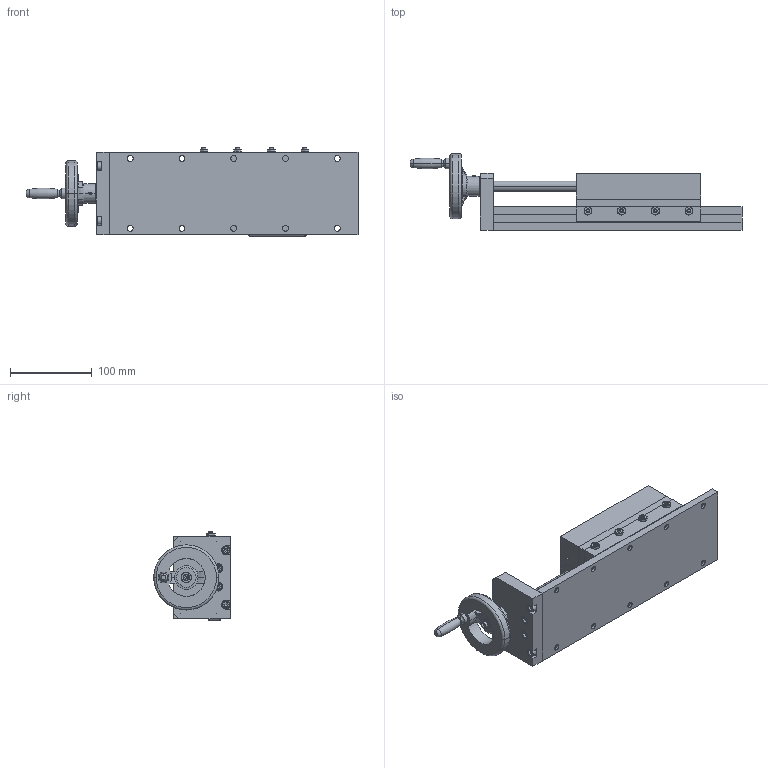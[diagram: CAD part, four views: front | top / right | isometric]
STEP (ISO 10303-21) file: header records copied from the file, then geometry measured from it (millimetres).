
FILE_DESCRIPTION (( 'STEP AP214' ), '1' );
FILE_NAME ('SW04-SL06-BL12-LS.STEP', '2011-11-04T18:49:21', ( '' ), ( '' ), 'SwSTEP 2.0', 'SolidWorks 2011', '' );
FILE_SCHEMA (( 'AUTOMOTIVE_DESIGN' ));
Length unit declared in the file: inch
Products named in the file (27): spring pin slotted_ai_SPS 0.125x1; socket head cap screw_ai_HX-SHCS 0.19-32x0.5x0.5-N; AHTNK80; EW-10; socket head cap screw_ai_HX-SHCS 0.25-20x0.75x0.75-N; 7806K64; Gen2 End Plate_04 EPLATE; socket head cap screw_ai_HX-SHCS 0.25-20x0.5x0.5-N; EW-20; Lead Screw_1_2-10 x 06.88 Lg; spring pin slotted_ai_SPS 0.1875x1.25; Lead Nut_1_2-10; socket head cap screw_ai_HX-SHCS 0.25-20x1.25x1.25-N; Gen2 Nut Plate_04x06 NPLATE; Gen2 SLIDE_SW04-SL06-BL12; Gen2 SADDLE_04x06 SADDLE; machine screw nut hex_ai_MSHXNUT 0.190-32-D-N; socket set screw cup point_ai_SSCUPSKT 0.19-32x0.875-HX-N; Tag; Gen2 Bar_04x06 BAR; Gen2 Adj Gib_04x06 ADJ GIB; Gen2 Gib_04x06 GIB; Gen2 Top plate_04x06 TPLATE; Gen2 BASE_04x12 BASE; Gen2 Hardplate_04x12 HPLATE; Gen2 Baseplate_04x12 BASE; SW04-SL06-BL12-LS
Assembly tree (39 placements, depth 4):
  SW04-SL06-BL12-LS
    7806K64  x2
    socket head cap screw_ai_HX-SHCS 0.25-20x1.25x1.25-N  x4
    Gen2 Nut Plate_04x06 NPLATE
    spring pin slotted_ai_SPS 0.125x1
    Gen2 SLIDE_SW04-SL06-BL12
      Gen2 SADDLE_04x06 SADDLE
        machine screw nut hex_ai_MSHXNUT 0.190-32-D-N  x4
        Gen2 Bar_04x06 BAR
        Gen2 Top plate_04x06 TPLATE
        Tag
        Gen2 Gib_04x06 GIB
        socket set screw cup point_ai_SSCUPSKT 0.19-32x0.875-HX-N  x4
        Gen2 Adj Gib_04x06 ADJ GIB
      Gen2 BASE_04x12 BASE
        Gen2 Baseplate_04x12 BASE
        Gen2 Hardplate_04x12 HPLATE
    socket head cap screw_ai_HX-SHCS 0.25-20x0.5x0.5-N
    socket head cap screw_ai_HX-SHCS 0.25-20x0.75x0.75-N  x4
    spring pin slotted_ai_SPS 0.1875x1.25
    Lead Screw_1_2-10 x 06.88 Lg
    socket head cap screw_ai_HX-SHCS 0.19-32x0.5x0.5-N
    Gen2 End Plate_04 EPLATE
    AHTNK80
    EW-10
    EW-20
    Lead Nut_1_2-10
Bounding box: 407.1 x 93.97 x 109.14 mm (x, y, z)
Volume: 1504939.4 mm3; surface area: 359767 mm2
Topology: 57 solids, 57 shells, 1003 faces, 2370 edges, 1376 vertices
Faces by surface type: plane 378, cylinder 283, cone 202, bspline 84, torus 54, sphere 2
Entity records: 22713 total; most frequent: CARTESIAN_POINT 5595, DIRECTION 3292, ORIENTED_EDGE 2910, EDGE_CURVE 1455, AXIS2_PLACEMENT_3D 1301, VERTEX_POINT 922, EDGE_LOOP 797, VECTOR 690
